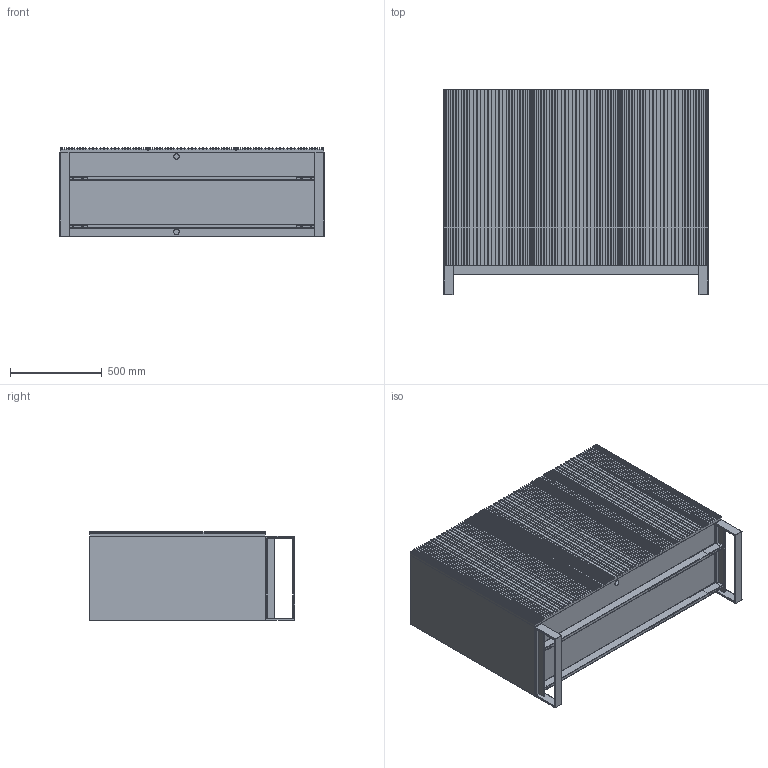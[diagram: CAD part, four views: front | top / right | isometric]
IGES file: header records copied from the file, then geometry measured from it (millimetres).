
Start section: SolidWorks IGES file using analytic representation for surfaces
Global section: file name: C:\Users\serena.trevisiol\Desktop\Nuova cartella\CARLOS cm 144x49x112H.IGS; native system: SolidWorks 2016; preprocessor: SolidWorks 2016; author: serena.trevisiol; date: 160609.091235; units: millimetre
Bounding box: 1440 x 1120 x 484 mm (x, y, z)
Surface area: 17001561 mm2 (no closed solid volume)
Topology: 0 solids, 0 shells, 1172 faces, 7080 edges, 7072 vertices
Faces by surface type: bspline 1088, revolution 84
